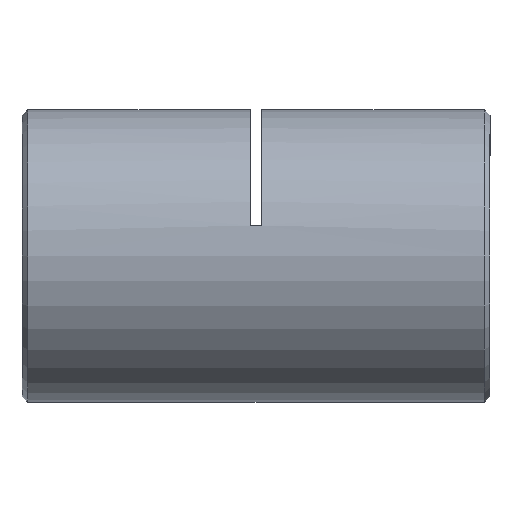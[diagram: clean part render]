
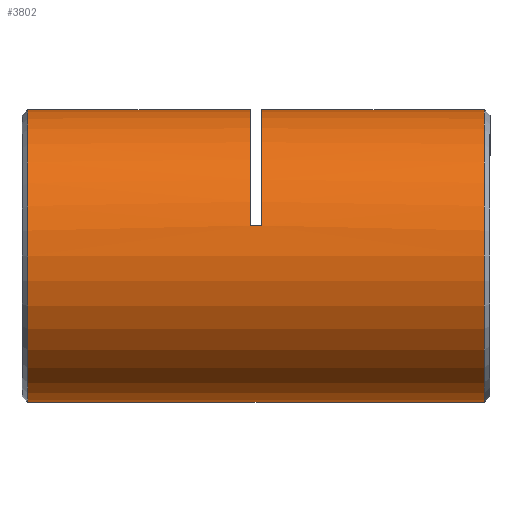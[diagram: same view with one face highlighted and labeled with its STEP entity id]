
A CAD part, left-side view. The second image highlights one B-rep face of the part: STEP entity #3802.
In plain terms, the highlighted cylindrical face has radius 12.5 mm (diameter 25 mm), a partial arc.
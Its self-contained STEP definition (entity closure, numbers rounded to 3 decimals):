
#76 = EDGE_CURVE ( 'NONE', #1437, #1489, #197, .T. ) ;
#114 = CARTESIAN_POINT ( 'NONE',  ( 0., 40.5, 0. ) ) ;
#197 = CIRCLE ( 'NONE', #2177, 12.5 ) ;
#274 = ORIENTED_EDGE ( 'NONE', *, *, #76, .T. ) ;
#323 = AXIS2_PLACEMENT_3D ( 'NONE', #114, #5529, #2842 ) ;
#717 = EDGE_CURVE ( 'NONE', #2182, #4671, #2768, .T. ) ;
#1064 = VERTEX_POINT ( 'NONE', #4971 ) ;
#1105 = LINE ( 'NONE', #4390, #3251 ) ;
#1128 = DIRECTION ( 'NONE',  ( 0., -1., 0. ) ) ;
#1220 = EDGE_CURVE ( 'NONE', #4335, #1489, #3938, .T. ) ;
#1355 = DIRECTION ( 'NONE',  ( 0., 1., 0. ) ) ;
#1391 = DIRECTION ( 'NONE',  ( 0., 0., 1. ) ) ;
#1437 = VERTEX_POINT ( 'NONE', #2703 ) ;
#1489 = VERTEX_POINT ( 'NONE', #5409 ) ;
#1547 = CIRCLE ( 'NONE', #2201, 12.5 ) ;
#1581 = DIRECTION ( 'NONE',  ( 0., -1., 0. ) ) ;
#1607 = CARTESIAN_POINT ( 'NONE',  ( 0., 39.75, 0. ) ) ;
#1656 = CARTESIAN_POINT ( 'NONE',  ( 0., 39.75, 12.5 ) ) ;
#1802 = DIRECTION ( 'NONE',  ( 0., -1., 0. ) ) ;
#2004 = ORIENTED_EDGE ( 'NONE', *, *, #717, .T. ) ;
#2020 = DIRECTION ( 'NONE',  ( 0., 0., -1. ) ) ;
#2131 = DIRECTION ( 'NONE',  ( 0., 1., 0. ) ) ;
#2139 = ORIENTED_EDGE ( 'NONE', *, *, #4264, .F. ) ;
#2177 = AXIS2_PLACEMENT_3D ( 'NONE', #2757, #1355, #3955 ) ;
#2182 = VERTEX_POINT ( 'NONE', #2512 ) ;
#2201 = AXIS2_PLACEMENT_3D ( 'NONE', #1607, #1581, #2020 ) ;
#2230 = ORIENTED_EDGE ( 'NONE', *, *, #5283, .T. ) ;
#2279 = VERTEX_POINT ( 'NONE', #3349 ) ;
#2378 = VECTOR ( 'NONE', #1802, 1000. ) ;
#2394 = CARTESIAN_POINT ( 'NONE',  ( 0., 0.75, 0. ) ) ;
#2398 = ORIENTED_EDGE ( 'NONE', *, *, #5250, .T. ) ;
#2512 = CARTESIAN_POINT ( 'NONE',  ( 0., 39.75, -12.5 ) ) ;
#2675 = DIRECTION ( 'NONE',  ( 0., 0., 1. ) ) ;
#2681 = AXIS2_PLACEMENT_3D ( 'NONE', #4974, #5442, #1391 ) ;
#2694 = ORIENTED_EDGE ( 'NONE', *, *, #3362, .F. ) ;
#2703 = CARTESIAN_POINT ( 'NONE',  ( -12.226, 20.75, 2.604 ) ) ;
#2757 = CARTESIAN_POINT ( 'NONE',  ( 0., 20.75, 0. ) ) ;
#2768 = LINE ( 'NONE', #3655, #2378 ) ;
#2823 = EDGE_LOOP ( 'NONE', ( #4785, #2230, #2004, #4027, #2139, #2694, #2398, #274 ) ) ;
#2842 = DIRECTION ( 'NONE',  ( 0., 0., -1. ) ) ;
#2851 = EDGE_CURVE ( 'NONE', #4671, #5221, #5827, .T. ) ;
#3251 = VECTOR ( 'NONE', #2131, 1000. ) ;
#3349 = CARTESIAN_POINT ( 'NONE',  ( -12.226, 19.75, 2.604 ) ) ;
#3362 = EDGE_CURVE ( 'NONE', #2279, #1064, #4741, .T. ) ;
#3655 = CARTESIAN_POINT ( 'NONE',  ( 0., 40.5, -12.5 ) ) ;
#3776 = CARTESIAN_POINT ( 'NONE',  ( 0., 40.5, 12.5 ) ) ;
#3802 = ADVANCED_FACE ( 'NONE', ( #4164 ), #4548, .T. ) ;
#3869 = VECTOR ( 'NONE', #3965, 1000. ) ;
#3938 = LINE ( 'NONE', #5207, #3869 ) ;
#3955 = DIRECTION ( 'NONE',  ( 0., 0., 1. ) ) ;
#3965 = DIRECTION ( 'NONE',  ( 0., -1., 0. ) ) ;
#4027 = ORIENTED_EDGE ( 'NONE', *, *, #2851, .T. ) ;
#4164 = FACE_OUTER_BOUND ( 'NONE', #2823, .T. ) ;
#4199 = DIRECTION ( 'NONE',  ( 0., 1., 0. ) ) ;
#4264 = EDGE_CURVE ( 'NONE', #1064, #5221, #5178, .T. ) ;
#4335 = VERTEX_POINT ( 'NONE', #1656 ) ;
#4390 = CARTESIAN_POINT ( 'NONE',  ( -12.226, 20.25, 2.604 ) ) ;
#4548 = CYLINDRICAL_SURFACE ( 'NONE', #323, 12.5 ) ;
#4671 = VERTEX_POINT ( 'NONE', #5093 ) ;
#4741 = CIRCLE ( 'NONE', #2681, 12.5 ) ;
#4785 = ORIENTED_EDGE ( 'NONE', *, *, #1220, .F. ) ;
#4971 = CARTESIAN_POINT ( 'NONE',  ( 0., 19.75, 12.5 ) ) ;
#4974 = CARTESIAN_POINT ( 'NONE',  ( 0., 19.75, 0. ) ) ;
#5093 = CARTESIAN_POINT ( 'NONE',  ( 0., 0.75, -12.5 ) ) ;
#5178 = LINE ( 'NONE', #3776, #5582 ) ;
#5207 = CARTESIAN_POINT ( 'NONE',  ( 0., 40.5, 12.5 ) ) ;
#5221 = VERTEX_POINT ( 'NONE', #5657 ) ;
#5250 = EDGE_CURVE ( 'NONE', #2279, #1437, #1105, .T. ) ;
#5283 = EDGE_CURVE ( 'NONE', #4335, #2182, #1547, .T. ) ;
#5355 = AXIS2_PLACEMENT_3D ( 'NONE', #2394, #4199, #2675 ) ;
#5409 = CARTESIAN_POINT ( 'NONE',  ( 0., 20.75, 12.5 ) ) ;
#5442 = DIRECTION ( 'NONE',  ( 0., 1., 0. ) ) ;
#5529 = DIRECTION ( 'NONE',  ( 0., -1., 0. ) ) ;
#5582 = VECTOR ( 'NONE', #1128, 1000. ) ;
#5657 = CARTESIAN_POINT ( 'NONE',  ( 0., 0.75, 12.5 ) ) ;
#5827 = CIRCLE ( 'NONE', #5355, 12.5 ) ;
